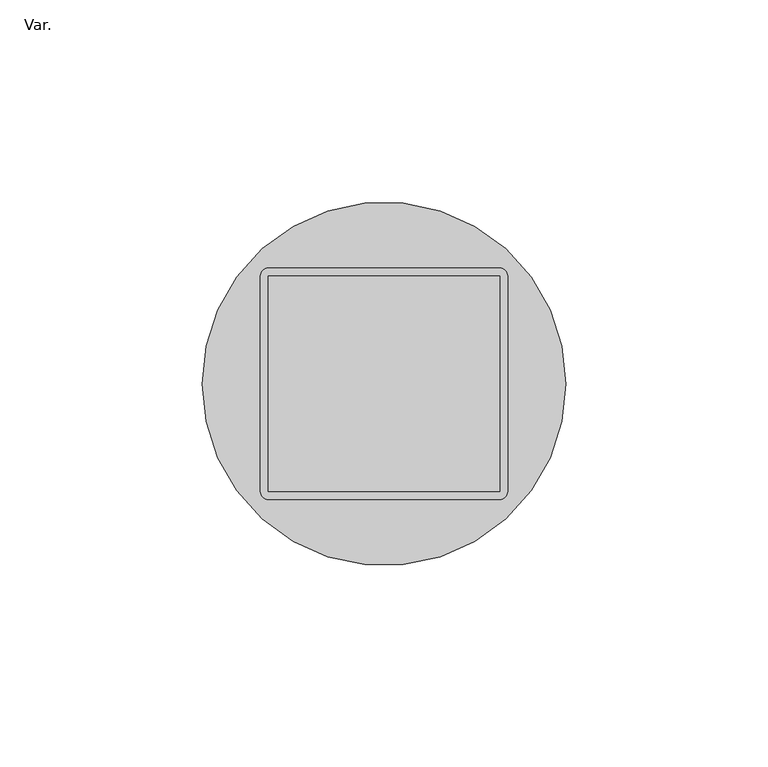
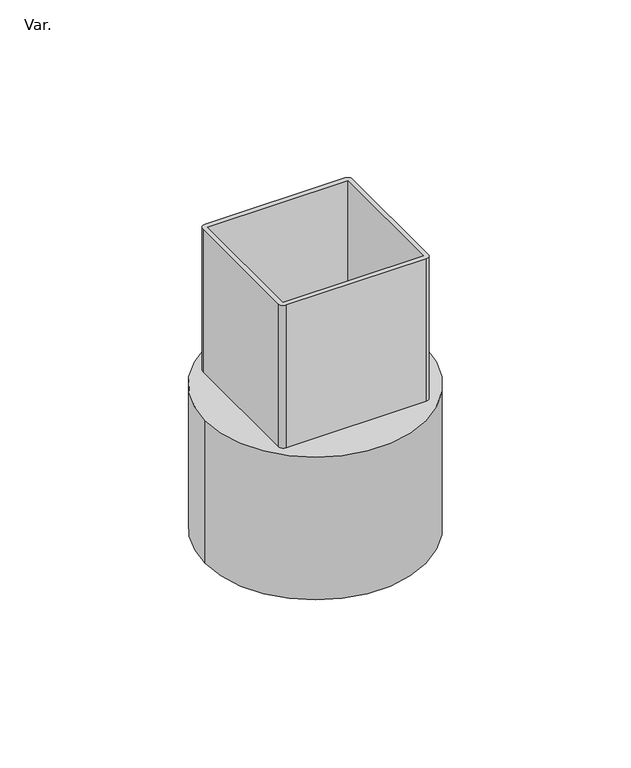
"""IFC4 building model written with IfcOpenShell, lengths in millimetres: pipe fitting geometry, PlastigamaWavin_Unionesdetubería_CanalesyBajantes_AdaptadordeBajante : Var.."""

from ifc_helpers import new_model, si_unit, frame, origin, origin_with_axes, place, context, project, spatial, polyline, circle_curve, source, transform, mapped, element, save
from ifc_brep_helpers import plane_surface, cylinder_surface, revolved_surface, advanced_brep


def var_41a2b926(model_context):
    return source(origin(), model_context, "Body", "AdvancedBrep", [
        advanced_brep(
        [(28.59, 28.63, 61.5), (-28.59, 28.63, 61.5), (-30.57, 26.65, 61.5), (-30.57, -26.65, 61.5), (-28.59, -28.63, 61.5), (28.59, -28.63, 61.5), (30.57, -26.65, 61.5), (30.57, 26.65, 61.5), (28.59, 26.65, 61.5), (28.59, -26.65, 61.5), (-28.59, -26.65, 61.5), (-28.59, 26.65, 61.5), (28.59, 26.65, 0.0), (28.59, -26.65, 0.0), (-28.59, -26.65, 0.0), (-28.59, 26.65, 0.0), (-45.0, 0.0, 0.0), (45.0, 0.0, 0.0), (-28.59, 28.63, 0.0), (28.59, 28.63, 0.0), (30.57, 26.65, 0.0), (30.57, -26.65, 0.0), (28.59, -28.63, 0.0), (-28.59, -28.63, 0.0), (-30.57, -26.65, 0.0), (-30.57, 26.65, 0.0), (-45.0, 0.0, -61.5), (45.0, 0.0, -61.5), (-42.5, 0.0, -61.5), (42.5, 0.0, -61.5), (-42.5, 0.0, -1.8654333), (42.5, 0.0, -1.8654333)],
        [
            (0, 1),
            (1, 2, circle_curve(frame((-28.59, 26.65, 61.5), z_axis=(0.0, 0.0, 1.0), x_axis=(1.0, 0.0, 0.0)), 1.98)),
            (2, 3),
            (3, 4, circle_curve(frame((-28.59, -26.65, 61.5), z_axis=(0.0, 0.0, 1.0), x_axis=(1.0, 0.0, 0.0)), 1.98)),
            (4, 5),
            (5, 6, circle_curve(frame((28.59, -26.65, 61.5), z_axis=(0.0, 0.0, 1.0), x_axis=(1.0, 0.0, 0.0)), 1.98)),
            (6, 7),
            (7, 0, circle_curve(frame((28.59, 26.65, 61.5), z_axis=(0.0, 0.0, 1.0), x_axis=(1.0, 0.0, 0.0)), 1.98)),
            (8, 9),
            (9, 10),
            (10, 11),
            (11, 8),
            (8, 12),
            (12, 13),
            (13, 9),
            (13, 14),
            (14, 10),
            (14, 15),
            (15, 11),
            (15, 12),
            (16, 17, circle_curve(origin_with_axes(), 45.0)),
            (17, 16, circle_curve(origin_with_axes(), 45.0)),
            (18, 19),
            (19, 20, circle_curve(frame((28.59, 26.65, 0.0), z_axis=(0.0, 0.0, -1.0), x_axis=(1.0, 0.0, 0.0)), 1.98)),
            (20, 21),
            (21, 22, circle_curve(frame((28.59, -26.65, 0.0), z_axis=(0.0, 0.0, -1.0), x_axis=(1.0, 0.0, 0.0)), 1.98)),
            (22, 23),
            (23, 24, circle_curve(frame((-28.59, -26.65, 0.0), z_axis=(0.0, 0.0, -1.0), x_axis=(1.0, 0.0, 0.0)), 1.98)),
            (24, 25),
            (25, 18, circle_curve(frame((-28.59, 26.65, 0.0), z_axis=(0.0, 0.0, -1.0), x_axis=(1.0, 0.0, 0.0)), 1.98)),
            (26, 27, circle_curve(frame((0.0, 0.0, -61.5), z_axis=(0.0, 0.0, -1.0), x_axis=(1.0, 0.0, 0.0)), 45.0)),
            (27, 26, circle_curve(frame((0.0, 0.0, -61.5), z_axis=(0.0, 0.0, -1.0), x_axis=(1.0, 0.0, 0.0)), 45.0)),
            (28, 29, circle_curve(frame((0.0, 0.0, -61.5), z_axis=(0.0, 0.0, 1.0), x_axis=(1.0, 0.0, 0.0)), 42.5)),
            (29, 28, circle_curve(frame((0.0, 0.0, -61.5), z_axis=(0.0, 0.0, 1.0), x_axis=(1.0, 0.0, 0.0)), 42.5)),
            (16, 26),
            (27, 17),
            (0, 19),
            (18, 1),
            (25, 2),
            (24, 3),
            (23, 4),
            (22, 5),
            (21, 6),
            (20, 7),
            (30, 31, circle_curve(frame((0.0, 0.0, -1.8654333), z_axis=(0.0, 0.0, -1.0), x_axis=(1.0, 0.0, 0.0)), 42.5)),
            (31, 30, circle_curve(frame((0.0, 0.0, -1.8654333), z_axis=(0.0, 0.0, -1.0), x_axis=(1.0, 0.0, 0.0)), 42.5)),
            (31, 29),
            (28, 30),
        ],
        [
            plane_surface(frame((28.59, 26.65, 61.5), z_axis=(0.0, 0.0, 1.0), x_axis=(0.0, -1.0, 0.0))),
            plane_surface(frame((28.59, 26.65, 61.5), z_axis=(-1.0, 0.0, 0.0), x_axis=(0.0, 0.0, -1.0))),
            plane_surface(frame((28.59, -26.65, 61.5), z_axis=(0.0, 1.0, 0.0), x_axis=(0.0, 0.0, -1.0))),
            plane_surface(frame((-28.59, -26.65, 61.5), z_axis=(1.0, 0.0, 0.0), x_axis=(0.0, 0.0, -1.0))),
            plane_surface(frame((-28.59, 26.65, 61.5), z_axis=(0.0, -1.0, 0.0), x_axis=(0.0, 0.0, -1.0))),
            plane_surface(frame((45.0, 0.0, 0.0), z_axis=(0.0, 0.0, 1.0), x_axis=(0.0, 1.0, 0.0))),
            plane_surface(frame((45.0, 0.0, -61.5), z_axis=(0.0, 0.0, -1.0), x_axis=(0.0, -1.0, 0.0))),
            cylinder_surface(frame((0.0, 0.0, -61.5), z_axis=(0.0, 0.0, 1.0), x_axis=(1.0, 0.0, 0.0)), 45.0),
            plane_surface(frame((28.59, 28.63, 61.5), z_axis=(0.0, 1.0, 0.0), x_axis=(0.0, 0.0, -1.0))),
            cylinder_surface(frame((-28.59, 26.65, 0.0), z_axis=(0.0, 0.0, 1.0), x_axis=(1.0, 0.0, 0.0)), 1.98),
            plane_surface(frame((-30.57, 26.65, 61.5), z_axis=(-1.0, 0.0, 0.0), x_axis=(0.0, 0.0, -1.0))),
            cylinder_surface(frame((-28.59, -26.65, 0.0), z_axis=(0.0, 0.0, 1.0), x_axis=(1.0, 0.0, 0.0)), 1.98),
            plane_surface(frame((-28.59, -28.63, 61.5), z_axis=(0.0, -1.0, 0.0), x_axis=(0.0, 0.0, -1.0))),
            cylinder_surface(frame((28.59, -26.65, 0.0), z_axis=(0.0, 0.0, 1.0), x_axis=(1.0, 0.0, 0.0)), 1.98),
            plane_surface(frame((30.57, -26.65, 61.5), z_axis=(1.0, 0.0, 0.0), x_axis=(0.0, 0.0, -1.0))),
            cylinder_surface(frame((28.59, 26.65, 0.0), z_axis=(0.0, 0.0, 1.0), x_axis=(1.0, 0.0, 0.0)), 1.98),
            plane_surface(frame((42.5, 0.0, -1.8654333), z_axis=(0.0, 0.0, -1.0), x_axis=(0.0, 1.0, 0.0))),
            revolved_surface(polyline([(42.5, 0.0, -1.8654332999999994), (42.5, 0.0, -61.5)]), (0.0, 0.0, -61.5), (0.0, 0.0, 1.0)),
        ],
        [
            (0, [[1, 2, 3, 4, 5, 6, 7, 8], [9, 10, 11, 12]]),
            (1, [[-9, 13, 14, 15]]),
            (2, [[-10, -15, 16, 17]]),
            (3, [[-11, -17, 18, 19]]),
            (4, [[-12, -19, 20, -13]]),
            (5, [[-14, -20, -18, -16]]),
            (5, [[21, 22], [23, 24, 25, 26, 27, 28, 29, 30]]),
            (6, [[31, 32], [33, 34]]),
            (7, [[-21, 35, -32, 36]]),
            (7, [[-22, -36, -31, -35]]),
            (8, [[-1, 37, -23, 38]]),
            (9, [[-2, -38, -30, 39]]),
            (10, [[-3, -39, -29, 40]]),
            (11, [[-4, -40, -28, 41]]),
            (12, [[-5, -41, -27, 42]]),
            (13, [[-6, -42, -26, 43]]),
            (14, [[-7, -43, -25, 44]]),
            (15, [[-8, -44, -24, -37]]),
            (16, [[45, 46]]),
            (17, [[-46, 47, -33, 48]]),
            (17, [[-45, -48, -34, -47]]),
        ],
    ),
    ])


if __name__ == "__main__":
    model = new_model("IFC4")
    model_context = context("Model", 3, world=origin())
    ifc_project = project(units=[si_unit("LENGTHUNIT", "METRE", prefix="MILLI")], contexts=[model_context])
    site = spatial("IfcSite", under=ifc_project)
    building = spatial("IfcBuilding", under=site)
    placement = place(None, origin())
    var_shape = var_41a2b926(model_context)
    element("IfcPipeFitting", 1, ObjectType="PlastigamaWavin_Unionesdetubería_CanalesyBajantes_AdaptadordeBajante : Var.", at=placement, inside=building, context=model_context, shape_type="MappedRepresentation", body=[
        mapped(var_shape, transform((0.0, 0.0, 0.0), x_axis=(1.0, 0.0, 0.0), y_axis=(0.0, 1.0, 0.0), z_axis=(0.0, 0.0, 1.0))),
    ])
    save(model, "model.ifc")
